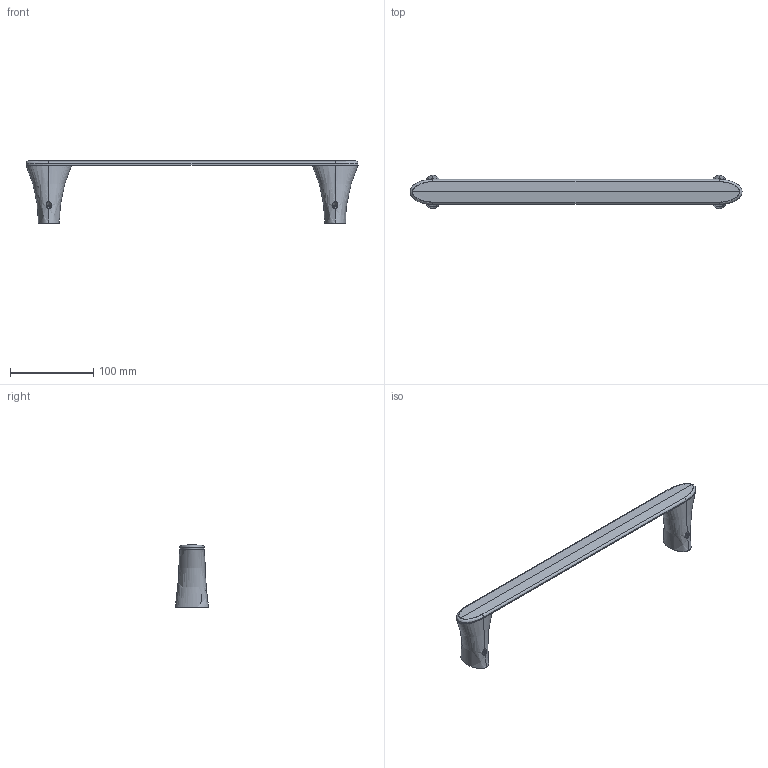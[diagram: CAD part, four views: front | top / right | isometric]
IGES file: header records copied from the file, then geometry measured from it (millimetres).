
Start section: SolidWorks IGES file using analytic representation for surfaces
Global section: file name: G:\Projects\New project\For Marketing\IGS\IGS\2015-12-25\761040001VW.IGS; native system: SolidWorks 2010; preprocessor: SolidWorks 2010; author: linda; date: 151218.151810; units: millimetre
Bounding box: 400 x 40 x 75 mm (x, y, z)
Surface area: 48262.4 mm2 (no closed solid volume)
Topology: 0 solids, 0 shells, 111 faces, 2650 edges, 2650 vertices
Faces by surface type: bspline 64, revolution 47
